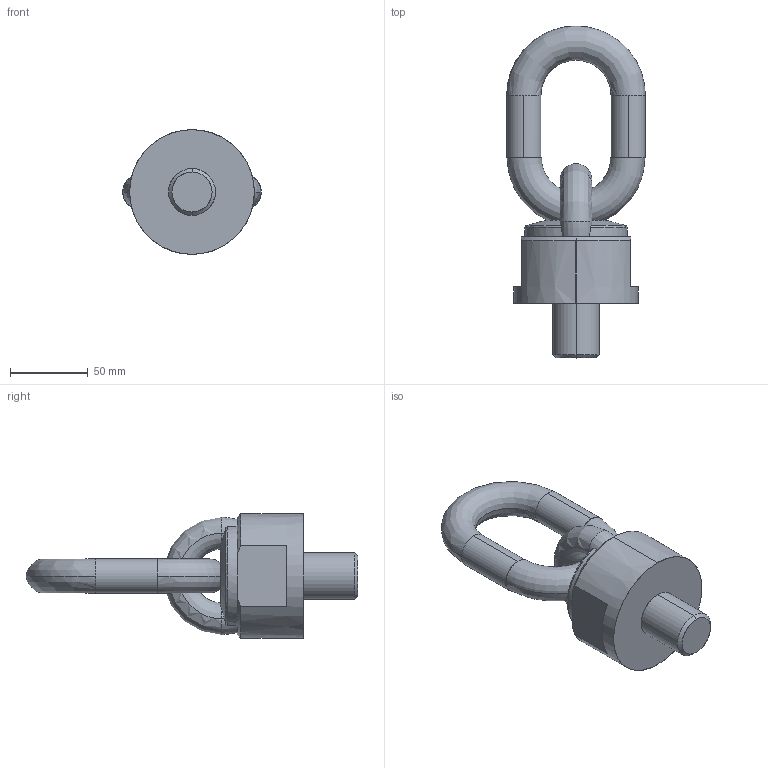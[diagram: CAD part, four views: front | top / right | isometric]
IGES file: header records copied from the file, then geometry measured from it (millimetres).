
Start section: START RECORD GO HERE.
Global section: file name: C800X0673035.igs; native system: DASSAULT SYSTEMES CATIA V5 R20 - www.3ds.com; preprocessor: CATIA Version 5 Release 20 ; author: Utente; organization: NB04-ASUS; date: 20200412.222319; units: millimetre
Bounding box: 89 x 213 x 80 mm (x, y, z)
Surface area: 48799.6 mm2 (no closed solid volume)
Topology: 0 solids, 0 shells, 45 faces, 253 edges, 253 vertices
Faces by surface type: revolution 33, extrusion 12
